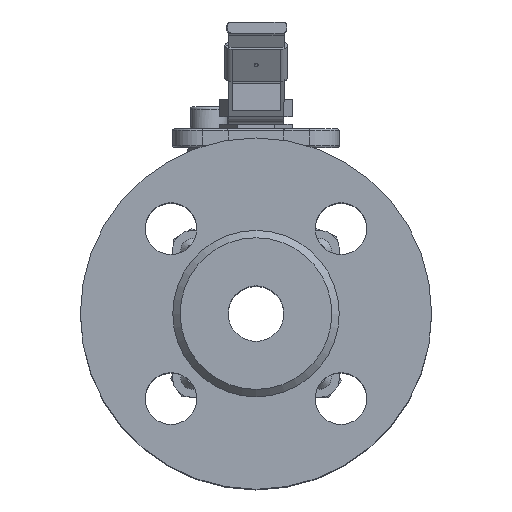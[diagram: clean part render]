
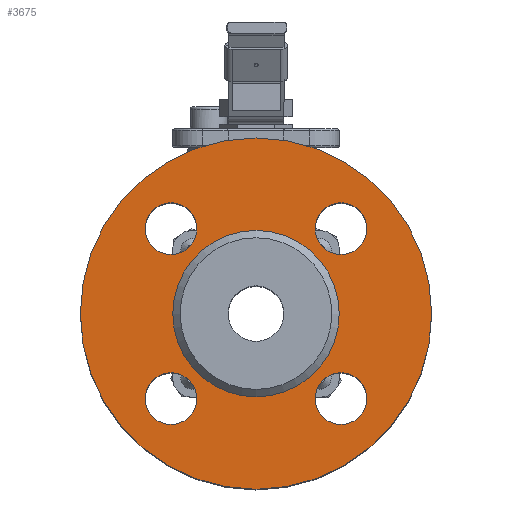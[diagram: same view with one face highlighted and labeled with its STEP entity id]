
A CAD part, top view. The second image highlights one B-rep face of the part: STEP entity #3675.
In plain terms, the highlighted planar face has unit normal (0, 0, 1).
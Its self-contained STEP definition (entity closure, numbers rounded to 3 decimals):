
#3675=ADVANCED_FACE('',(#9818,#9820,#9822,#9824,#9826,#9828),#9830,.F.);
#9818=FACE_BOUND('',#9819,.T.);
#9819=EDGE_LOOP('',(#14681));
#9820=FACE_BOUND('',#9821,.T.);
#9821=EDGE_LOOP('',(#14682));
#9822=FACE_BOUND('',#9823,.T.);
#9823=EDGE_LOOP('',(#14683));
#9824=FACE_BOUND('',#9825,.T.);
#9825=EDGE_LOOP('',(#14684));
#9826=FACE_BOUND('',#9827,.T.);
#9827=EDGE_LOOP('',(#14685));
#9828=FACE_BOUND('',#9829,.T.);
#9829=EDGE_LOOP('',(#14686));
#9830=PLANE('',#9831);
#9831=AXIS2_PLACEMENT_3D('',#9832,#9833,#9834);
#9832=CARTESIAN_POINT('',(0.,0.,41.139));
#9833=DIRECTION('',(0.,0.,-1.));
#9834=DIRECTION('',(0.,1.,0.));
#14681=ORIENTED_EDGE('',*,*,#16932,.T.);
#14682=ORIENTED_EDGE('',*,*,#16933,.T.);
#14683=ORIENTED_EDGE('',*,*,#16934,.T.);
#14684=ORIENTED_EDGE('',*,*,#16935,.T.);
#14685=ORIENTED_EDGE('',*,*,#16936,.T.);
#14686=ORIENTED_EDGE('',*,*,#16978,.F.);
#16932=EDGE_CURVE('',#19515,#19515,#19516,.T.);
#16933=EDGE_CURVE('',#19517,#19517,#19518,.T.);
#16934=EDGE_CURVE('',#19519,#19519,#19520,.T.);
#16935=EDGE_CURVE('',#19521,#19521,#19522,.T.);
#16936=EDGE_CURVE('',#19523,#19523,#19524,.T.);
#16978=EDGE_CURVE('',#19596,#19596,#19597,.T.);
#19515=VERTEX_POINT('',#30765);
#19516=CIRCLE('',#30766,47.5);
#19517=VERTEX_POINT('',#30770);
#19518=CIRCLE('',#30771,7.);
#19519=VERTEX_POINT('',#30775);
#19520=CIRCLE('',#30776,7.);
#19521=VERTEX_POINT('',#30780);
#19522=CIRCLE('',#30781,7.);
#19523=VERTEX_POINT('',#30785);
#19524=CIRCLE('',#30786,7.);
#19596=VERTEX_POINT('',#31281);
#19597=CIRCLE('',#31282,22.5);
#30765=CARTESIAN_POINT('',(0.,-47.5,41.139));
#30766=AXIS2_PLACEMENT_3D('',#30767,#30768,#30769);
#30767=CARTESIAN_POINT('',(0.,0.,41.139));
#30768=DIRECTION('',(0.,0.,1.));
#30769=DIRECTION('',(0.,1.,0.));
#30770=CARTESIAN_POINT('',(15.981,22.981,41.139));
#30771=AXIS2_PLACEMENT_3D('',#30772,#30773,#30774);
#30772=CARTESIAN_POINT('',(22.981,22.981,41.139));
#30773=DIRECTION('',(0.,0.,-1.));
#30774=DIRECTION('',(-1.,0.,0.));
#30775=CARTESIAN_POINT('',(-22.981,15.981,41.139));
#30776=AXIS2_PLACEMENT_3D('',#30777,#30778,#30779);
#30777=CARTESIAN_POINT('',(-22.981,22.981,41.139));
#30778=DIRECTION('',(0.,0.,-1.));
#30779=DIRECTION('',(0.,-1.,0.));
#30780=CARTESIAN_POINT('',(-15.981,-22.981,41.139));
#30781=AXIS2_PLACEMENT_3D('',#30782,#30783,#30784);
#30782=CARTESIAN_POINT('',(-22.981,-22.981,41.139));
#30783=DIRECTION('',(0.,0.,-1.));
#30784=DIRECTION('',(1.,0.,0.));
#30785=CARTESIAN_POINT('',(22.981,-15.981,41.139));
#30786=AXIS2_PLACEMENT_3D('',#30787,#30788,#30789);
#30787=CARTESIAN_POINT('',(22.981,-22.981,41.139));
#30788=DIRECTION('',(0.,0.,-1.));
#30789=DIRECTION('',(0.,1.,0.));
#31281=CARTESIAN_POINT('',(0.,22.5,41.139));
#31282=AXIS2_PLACEMENT_3D('',#31283,#31284,#31285);
#31283=CARTESIAN_POINT('',(0.,0.,41.139));
#31284=DIRECTION('',(0.,0.,1.));
#31285=DIRECTION('',(0.,1.,0.));
